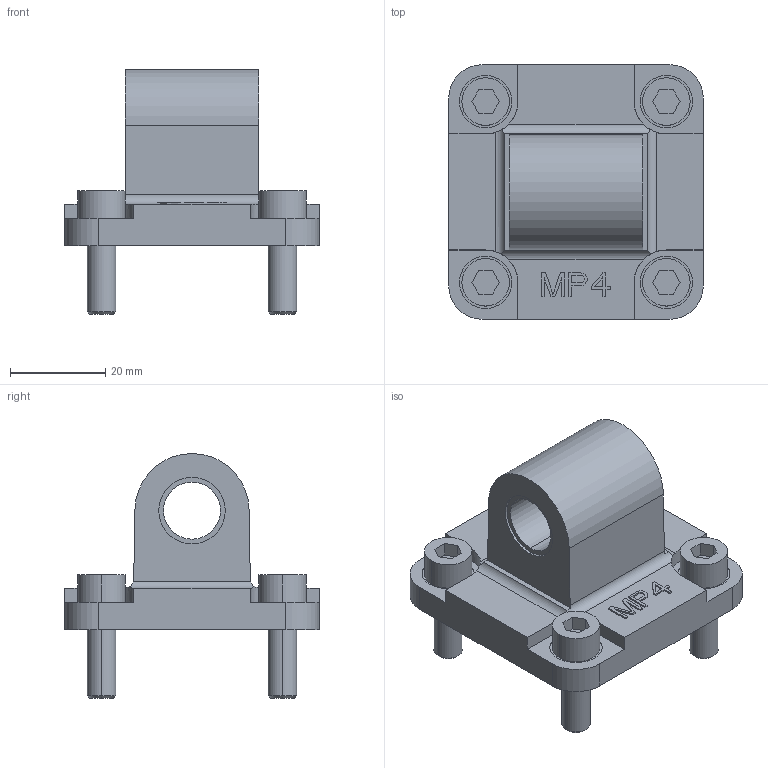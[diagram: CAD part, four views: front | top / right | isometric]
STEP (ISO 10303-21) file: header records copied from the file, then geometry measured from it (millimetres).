
FILE_DESCRIPTION((''),'2;1');
FILE_NAME('R412027814','2023-11-07T16:30:42',('THD3HC'),(''),'CREO PARAMETRIC BY PTC INC, 2020044','CREO PARAMETRIC BY PTC INC, 2020044','');
FILE_SCHEMA(('CONFIG_CONTROL_DESIGN','SHAPE_APPEARANCE_LAYERS_GROUPS'));
Length unit declared in the file: millimetre
Products named in the file (1): R412027814
Bounding box: 53.5 x 53.5 x 51.5 mm (x, y, z)
Volume: 34227.9 mm3; surface area: 13500.1 mm2
Topology: 1 solids, 1 shells, 188 faces, 469 edges, 310 vertices
Faces by surface type: plane 129, cylinder 51, cone 8
Entity records: 6957 total; most frequent: CARTESIAN_POINT 1079, DIRECTION 943, ORIENTED_EDGE 938, EDGE_CURVE 469, VECTOR 347, LINE 347, VERTEX_POINT 310, AXIS2_PLACEMENT_3D 298
